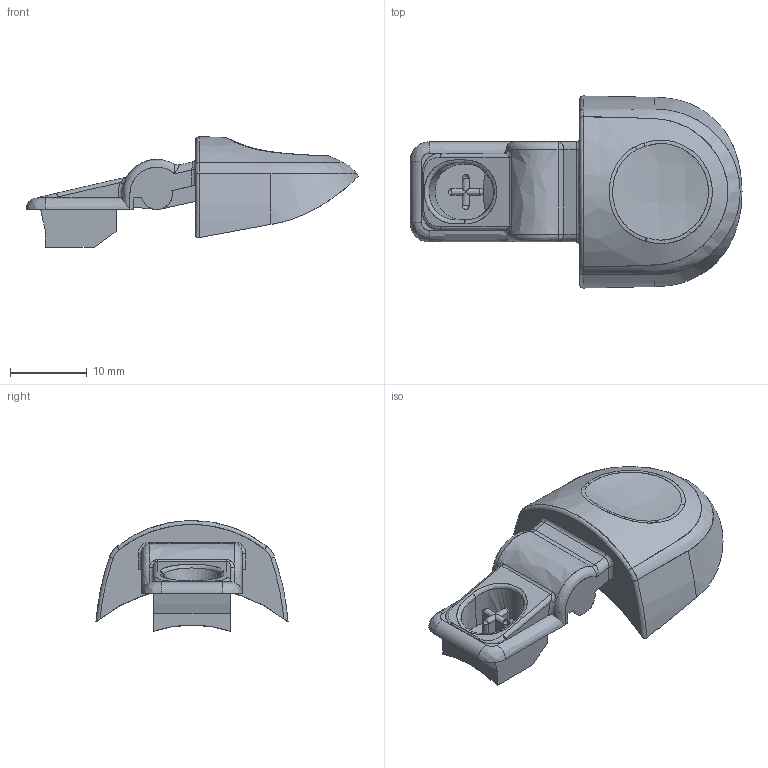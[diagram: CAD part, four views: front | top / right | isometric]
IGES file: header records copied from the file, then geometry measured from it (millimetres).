
Start section: START RECORD GO HERE
Global section: file name: 0224R04; native system: IBM CATIA IGES - CATIA SOLUTIONS V4RELEASE 2.4 REFRESH 02; preprocessor: CATIA SOLUTIONS V4RELEASE 2.4 REFRESH 02; organization: DASSAULT SYSTEMES; date: 030211.132815; units: millimetre
Bounding box: 43.12 x 24.95 x 14.41 mm (x, y, z)
Surface area: 2761 mm2 (no closed solid volume)
Topology: 0 solids, 0 shells, 114 faces, 901 edges, 889 vertices
Faces by surface type: bspline 71, extrusion 38, revolution 5
